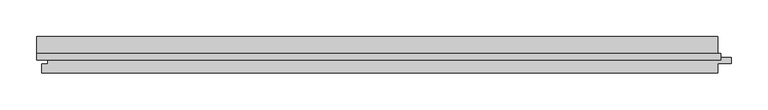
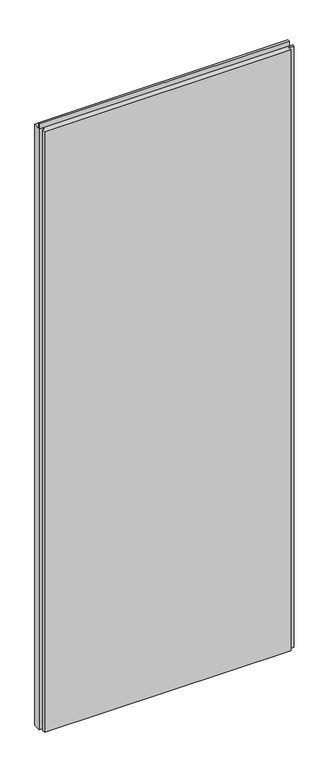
"""IFC4 building model written with IfcOpenShell, lengths in millimetres: plate geometry, Trimo_Qbiss Screen_Normal Panel-VERTICAL : HR - FB."""

from ifc_helpers import new_model, si_unit, frame, origin, place, context, project, spatial, polyline, outline, extrude, source, transform, mapped, element, save


def plate_73256dec(model_context):
    return source(origin(), model_context, "Body", "SweptSolid", [
        extrude(outline(polyline([(-467.0, 93.9), (-467.0, 102.6), (467.0, 102.6), (467.0, 93.9), (-467.0, 93.9)])), frame((0.0, 0.0, 2390.5), z_axis=(0.0, 0.0, 1.0), x_axis=(1.0, 0.0, 0.0)), (0.0, 0.0, 1.0), 19.0),
        extrude(outline(polyline([(463.0, 97.0), (481.5, 97.0), (481.5, 89.0), (463.0, 89.0), (463.0, 76.0), (-460.0, 76.0), (-460.0, 88.0), (-451.5, 88.0), (-451.5, 98.0), (-467.0, 98.0), (-467.0, 126.0), (463.0, 126.0), (463.0, 97.0)])), frame((0.0, 0.0, 12.5), z_axis=(0.0, 0.0, 1.0), x_axis=(1.0, 0.0, 0.0)), (0.0, 0.0, 1.0), 2375.0),
    ])


if __name__ == "__main__":
    model = new_model("IFC4")
    model_context = context("Model", 3, world=origin())
    ifc_project = project(units=[si_unit("LENGTHUNIT", "METRE", prefix="MILLI")], contexts=[model_context])
    site = spatial("IfcSite", under=ifc_project)
    building = spatial("IfcBuilding", under=site)
    placement = place(None, origin())
    plate_shape = plate_73256dec(model_context)
    element("IfcPlate", 1, ObjectType="Trimo_Qbiss Screen_Normal Panel-VERTICAL : HR - FB", at=placement, inside=building, context=model_context, shape_type="MappedRepresentation", body=[
        mapped(plate_shape, transform((0.0, 0.0, 0.0), x_axis=(1.0, 0.0, 0.0), y_axis=(0.0, 1.0, 0.0), z_axis=(0.0, 0.0, 1.0))),
    ])
    save(model, "model.ifc")
